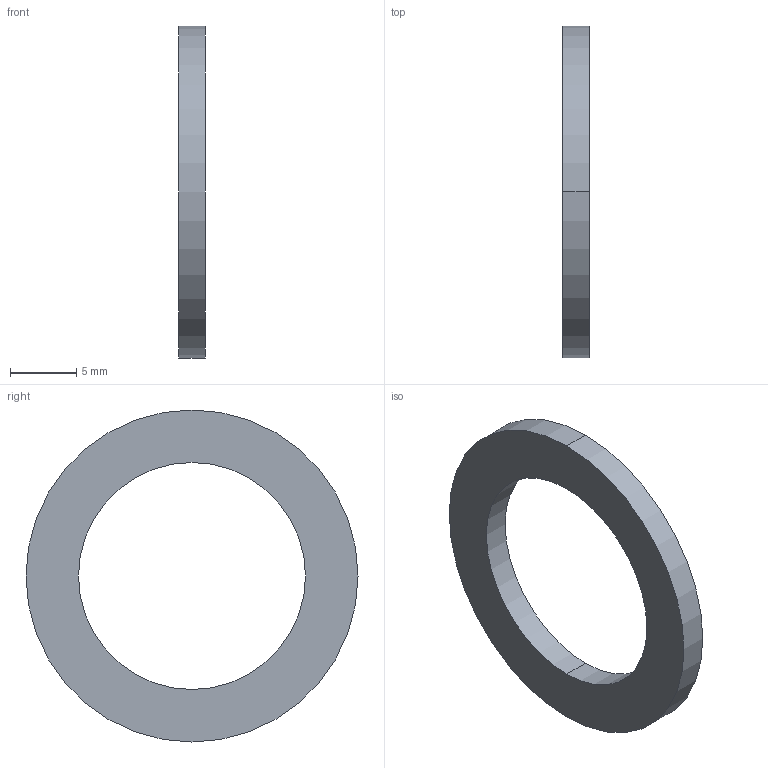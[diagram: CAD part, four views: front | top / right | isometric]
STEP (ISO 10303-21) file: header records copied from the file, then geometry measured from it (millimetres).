
FILE_DESCRIPTION (( 'STEP AP203' ), '1' );
FILE_NAME ('084.800.014.STEP', '2013-01-29T09:21:30', ( 'Alusic' ), ( 'Alusic' ), 'SwSTEP 2.0', 'SolidWorks 2011', '' );
FILE_SCHEMA (( 'CONFIG_CONTROL_DESIGN' ));
Length unit declared in the file: millimetre
Products named in the file (1): 084.800.014
Bounding box: 2 x 25 x 25 mm (x, y, z)
Volume: 522.4 mm3; surface area: 787 mm2
Topology: 1 solids, 1 shells, 6 faces, 12 edges, 8 vertices
Faces by surface type: cylinder 4, plane 2
Entity records: 245 total; most frequent: DIRECTION 34, CARTESIAN_POINT 27, ORIENTED_EDGE 24, AXIS2_PLACEMENT_3D 15, EDGE_CURVE 12, EDGE_LOOP 8, PERSON_AND_ORGANIZATION 8, VERTEX_POINT 8
